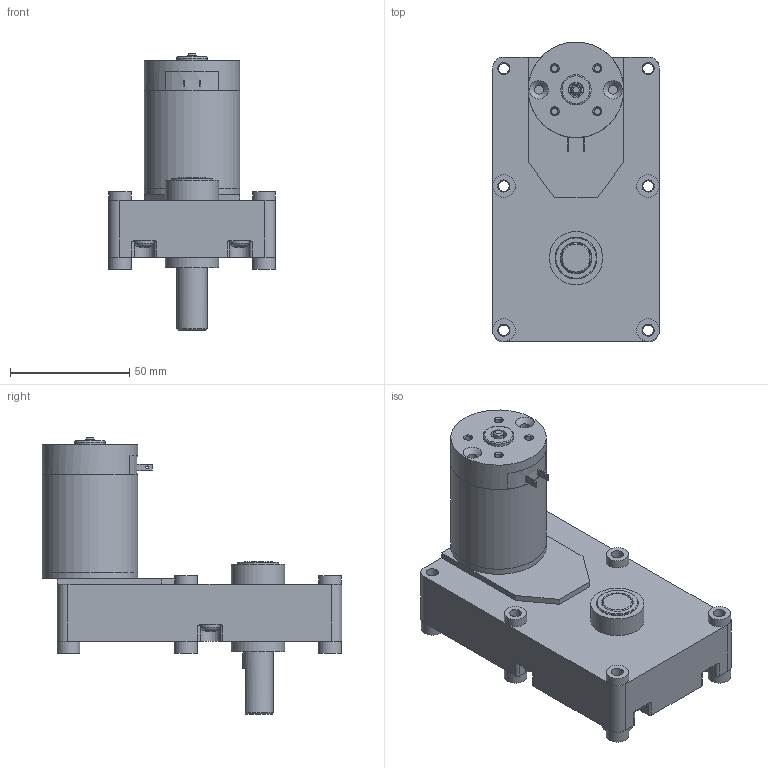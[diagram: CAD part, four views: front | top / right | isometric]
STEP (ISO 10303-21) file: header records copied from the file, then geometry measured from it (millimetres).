
FILE_DESCRIPTION((''),'2;1');
FILE_NAME('D:\업무 관련\2. DC\홈페이지 링크용 도면\3D\SG\SG43BT.stp','2015-04-04T09:20:37',('leejy'),(''),'Autodesk Inventor 2013','Autodesk Inventor 2013','');
FILE_SCHEMA(('AUTOMOTIVE_DESIGN { 1 0 10303 214 1 1 1 1 }'));
Length unit declared in the file: millimetre
Products named in the file (9): SG43BT; SG2 SERIES BOX; RM43ㅁBT; RM4TYPE_FRONT_HOUSING_; REAR_HOUSING__ASS'Y_TERMINAL; RM4TYPE_BRUSH_BRAKET_TERMINAL; RM4TYPE_REAR_HOUSING; RM4TYPE_PIPE_HOUSING_pi40XL40.8; RM43TYPE_SHAFT
Assembly tree (7 placements, depth 3):
  SG43BT
    SG2 SERIES BOX
    RM43ㅁBT
      RM4TYPE_FRONT_HOUSING_
      RM4TYPE_PIPE_HOUSING_pi40XL40.8
      RM43TYPE_SHAFT
  REAR_HOUSING__ASS'Y_TERMINAL
    RM4TYPE_BRUSH_BRAKET_TERMINAL
    RM4TYPE_REAR_HOUSING
Bounding box: 69.85 x 125.41 x 115.68 mm (x, y, z)
Volume: 121022.3 mm3; surface area: 74290 mm2
Topology: 7 solids, 7 shells, 455 faces, 1192 edges, 773 vertices
Faces by surface type: plane 179, cylinder 123, cone 95, torus 52, sphere 6
Full cylindrical faces by diameter (mm): 1.2 x2, 2.7 x4, 2.8 x4, 3.571 x6, 3.7 x2, 3.969 x1, 4 x7, 4.3 x6, 4.4 x6, 4.45 x1, 5 x1, 5.05 x6, 6 x1, 6.5 x1, 6.65 x1, 9.4 x1, 9.5 x9, 12.7 x5, 17.5 x4, 20.3 x1, 22.3 x2, 36.5 x1, 40 x3
Entity records: 14168 total; most frequent: CARTESIAN_POINT 3454, DIRECTION 2165, ORIENTED_EDGE 1988, EDGE_CURVE 994, AXIS2_PLACEMENT_3D 917, VERTEX_POINT 712, EDGE_LOOP 670, FACE_OUTER_BOUND 455
